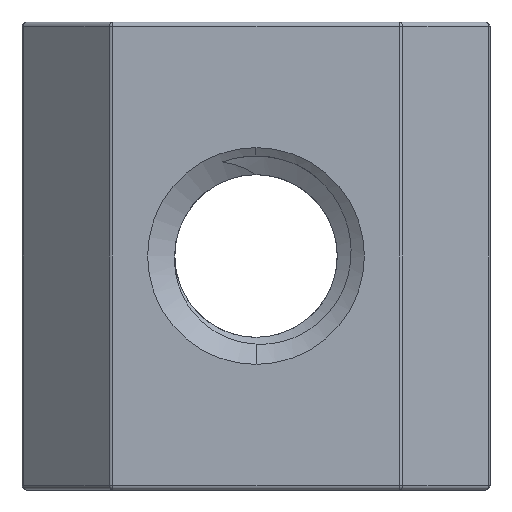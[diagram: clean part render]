
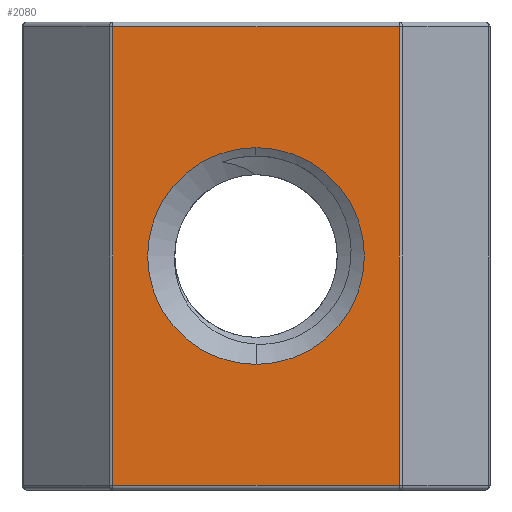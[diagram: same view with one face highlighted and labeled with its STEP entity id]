
A CAD part, front view. The second image highlights one B-rep face of the part: STEP entity #2080.
In plain terms, the highlighted planar face has unit normal (0, -1, 0).
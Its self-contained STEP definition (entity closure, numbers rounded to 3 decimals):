
#120 = ORIENTED_EDGE ( 'NONE', *, *, #1911, .T. ) ;
#171 = VERTEX_POINT ( 'NONE', #2898 ) ;
#442 = CARTESIAN_POINT ( 'NONE',  ( 2.909, -2.25, 4.75 ) ) ;
#540 = DIRECTION ( 'NONE',  ( 0., 0., 1. ) ) ;
#560 = VECTOR ( 'NONE', #1620, 1000. ) ;
#594 = EDGE_CURVE ( 'NONE', #3674, #3863, #3613, .T. ) ;
#712 = CARTESIAN_POINT ( 'NONE',  ( 2.95, -2.25, -4.65 ) ) ;
#730 = AXIS2_PLACEMENT_3D ( 'NONE', #2482, #2157, #1842 ) ;
#771 = DIRECTION ( 'NONE',  ( 0., 0., -1. ) ) ;
#779 = FACE_BOUND ( 'NONE', #1262, .T. ) ;
#788 = CIRCLE ( 'NONE', #1866, 2.2 ) ;
#862 = VECTOR ( 'NONE', #771, 1000. ) ;
#1114 = LINE ( 'NONE', #1436, #862 ) ;
#1133 = VECTOR ( 'NONE', #1238, 1000. ) ;
#1182 = FACE_OUTER_BOUND ( 'NONE', #3348, .T. ) ;
#1202 = CARTESIAN_POINT ( 'NONE',  ( -2.909, -2.25, -4.65 ) ) ;
#1238 = DIRECTION ( 'NONE',  ( -1., 0., 0. ) ) ;
#1262 = EDGE_LOOP ( 'NONE', ( #2895, #2760 ) ) ;
#1436 = CARTESIAN_POINT ( 'NONE',  ( -2.909, -2.25, 4.75 ) ) ;
#1593 = EDGE_CURVE ( 'NONE', #171, #3806, #788, .T. ) ;
#1620 = DIRECTION ( 'NONE',  ( 1., 0., 0. ) ) ;
#1831 = DIRECTION ( 'NONE',  ( 0., 1., 0. ) ) ;
#1842 = DIRECTION ( 'NONE',  ( 0., 0., 1. ) ) ;
#1866 = AXIS2_PLACEMENT_3D ( 'NONE', #2294, #1983, #2640 ) ;
#1911 = EDGE_CURVE ( 'NONE', #3158, #3674, #1114, .T. ) ;
#1917 = LINE ( 'NONE', #4099, #1133 ) ;
#1983 = DIRECTION ( 'NONE',  ( 0., 1., 0. ) ) ;
#2080 = ADVANCED_FACE ( 'NONE', ( #1182, #779 ), #2150, .F. ) ;
#2150 = PLANE ( 'NONE',  #3146 ) ;
#2157 = DIRECTION ( 'NONE',  ( 0., 1., 0. ) ) ;
#2255 = EDGE_CURVE ( 'NONE', #3320, #3158, #1917, .T. ) ;
#2294 = CARTESIAN_POINT ( 'NONE',  ( 0., -2.25, 0. ) ) ;
#2397 = EDGE_CURVE ( 'NONE', #3863, #3320, #3709, .T. ) ;
#2482 = CARTESIAN_POINT ( 'NONE',  ( 0., -2.25, 0. ) ) ;
#2640 = DIRECTION ( 'NONE',  ( 0., 0., 1. ) ) ;
#2732 = EDGE_CURVE ( 'NONE', #3806, #171, #3221, .T. ) ;
#2760 = ORIENTED_EDGE ( 'NONE', *, *, #2732, .T. ) ;
#2852 = CARTESIAN_POINT ( 'NONE',  ( 2.909, -2.25, 4.65 ) ) ;
#2895 = ORIENTED_EDGE ( 'NONE', *, *, #1593, .T. ) ;
#2898 = CARTESIAN_POINT ( 'NONE',  ( 0., -2.25, 2.2 ) ) ;
#3146 = AXIS2_PLACEMENT_3D ( 'NONE', #3436, #1831, #540 ) ;
#3158 = VERTEX_POINT ( 'NONE', #4106 ) ;
#3221 = CIRCLE ( 'NONE', #730, 2.2 ) ;
#3320 = VERTEX_POINT ( 'NONE', #2852 ) ;
#3321 = DIRECTION ( 'NONE',  ( 0., 0., 1. ) ) ;
#3348 = EDGE_LOOP ( 'NONE', ( #3924, #4134, #4039, #120 ) ) ;
#3436 = CARTESIAN_POINT ( 'NONE',  ( -4.75, -2.25, 4.75 ) ) ;
#3610 = CARTESIAN_POINT ( 'NONE',  ( 0., -2.25, -2.2 ) ) ;
#3613 = LINE ( 'NONE', #712, #560 ) ;
#3654 = CARTESIAN_POINT ( 'NONE',  ( 2.909, -2.25, -4.65 ) ) ;
#3674 = VERTEX_POINT ( 'NONE', #1202 ) ;
#3709 = LINE ( 'NONE', #442, #4046 ) ;
#3806 = VERTEX_POINT ( 'NONE', #3610 ) ;
#3863 = VERTEX_POINT ( 'NONE', #3654 ) ;
#3924 = ORIENTED_EDGE ( 'NONE', *, *, #594, .T. ) ;
#4039 = ORIENTED_EDGE ( 'NONE', *, *, #2255, .T. ) ;
#4046 = VECTOR ( 'NONE', #3321, 1000. ) ;
#4099 = CARTESIAN_POINT ( 'NONE',  ( -4.75, -2.25, 4.65 ) ) ;
#4106 = CARTESIAN_POINT ( 'NONE',  ( -2.909, -2.25, 4.65 ) ) ;
#4134 = ORIENTED_EDGE ( 'NONE', *, *, #2397, .T. ) ;
